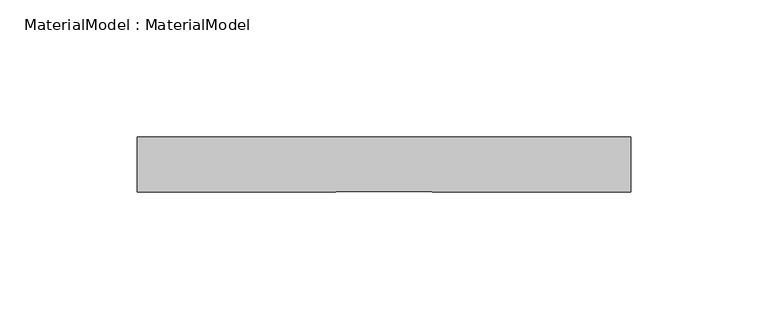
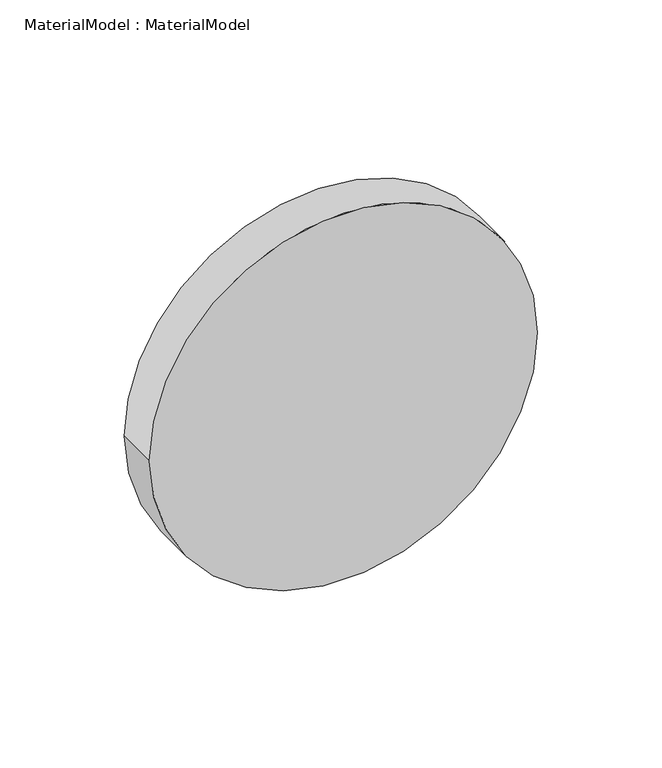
"""IFC4 building model written with IfcOpenShell, lengths in millimetres: proxy geometry, MaterialModel : MaterialModel."""

from ifc_helpers import new_model, si_unit, point, frame, frame_2d, origin, place, context, project, spatial, circle_curve, trimmed, segment, composite_curve, outline, extrude, source, transform, mapped, element, save


def materialmodel_materialmodel_77b1ec5b(model_context):
    return source(origin(), model_context, "Body", "SweptSolid", [
        extrude(outline(composite_curve([segment(trimmed(circle_curve(frame_2d((10.0, 0.0)), 90.0), [point((10.0, -90.0))], [point((10.0, 90.0))], False, "CARTESIAN"), True, "CONTINUOUS"), segment(trimmed(circle_curve(frame_2d((10.0, 0.0)), 90.0), [point((10.0, 90.0))], [point((10.0, -90.0))], False, "CARTESIAN"), True, "CONTINUOUS")], self_intersect=False)), frame((0.0, -10.0, 0.0), z_axis=(0.0, 1.0, 0.0), x_axis=(0.0, 0.0, 1.0)), (0.0, 0.0, 1.0), 20.0),
    ])


if __name__ == "__main__":
    model = new_model("IFC4")
    model_context = context("Model", 3, world=origin())
    ifc_project = project(units=[si_unit("LENGTHUNIT", "METRE", prefix="MILLI")], contexts=[model_context])
    site = spatial("IfcSite", under=ifc_project)
    building = spatial("IfcBuilding", under=site)
    placement = place(None, origin())
    materialmodel_materialmodel_shape = materialmodel_materialmodel_77b1ec5b(model_context)
    element("IfcBuildingElementProxy", 1, Name="MaterialModel : MaterialModel", ObjectType="MaterialModel : MaterialModel", at=placement, inside=building, context=model_context, shape_type="MappedRepresentation", body=[
        mapped(materialmodel_materialmodel_shape, transform((0.0, 0.0, 0.0), x_axis=(1.0, 0.0, 0.0), y_axis=(0.0, 1.0, 0.0), z_axis=(0.0, 0.0, 1.0))),
    ])
    save(model, "model.ifc")
